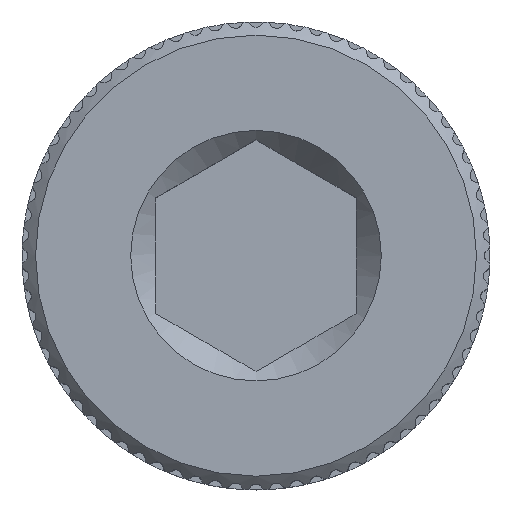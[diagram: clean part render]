
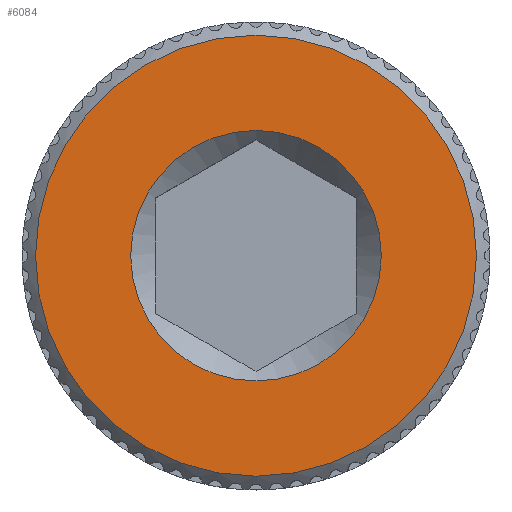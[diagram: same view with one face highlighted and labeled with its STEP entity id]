
A CAD part, top view. The second image highlights one B-rep face of the part: STEP entity #6084.
In plain terms, the highlighted planar face has unit normal (0, 0, 1).
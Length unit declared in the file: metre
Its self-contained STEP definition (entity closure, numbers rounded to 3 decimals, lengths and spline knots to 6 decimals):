
#15=PLANE('',#6568);
#2191=ORIENTED_EDGE('',*,*,#3583,.F.);
#2192=ORIENTED_EDGE('',*,*,#3869,.F.);
#3583=EDGE_CURVE('NONE',#4576,#4576,#5147,.T.);
#3869=EDGE_CURVE('NONE',#4853,#4853,#5220,.T.);
#4576=VERTEX_POINT('',#9306);
#4853=VERTEX_POINT('',#10515);
#5147=CIRCLE('',#6413,0.001875);
#5220=CIRCLE('',#6487,0.0033);
#5383=EDGE_LOOP('',(#2191));
#5384=EDGE_LOOP('',(#2192));
#5699=FACE_BOUND('',#5383,.T.);
#5700=FACE_BOUND('',#5384,.T.);
#6084=ADVANCED_FACE('NONE',(#5699,#5700),#15,.T.);
#6413=AXIS2_PLACEMENT_3D('',#9305,#6989,#6990);
#6487=AXIS2_PLACEMENT_3D('',#10514,#7137,#7138);
#6568=AXIS2_PLACEMENT_3D('',#10887,#7443,#7444);
#6989=DIRECTION('',(0.,0.,1.));
#6990=DIRECTION('',(1.,0.,0.));
#7137=DIRECTION('',(0.,0.,-1.));
#7138=DIRECTION('',(0.,1.,0.));
#7443=DIRECTION('',(0.,0.,1.));
#7444=DIRECTION('',(0.,-1.,0.));
#9305=CARTESIAN_POINT('',(0.,0.,0.01));
#9306=CARTESIAN_POINT('',(0.001875,0.,0.01));
#10514=CARTESIAN_POINT('',(0.,0.,0.01));
#10515=CARTESIAN_POINT('',(0.,0.0033,0.01));
#10887=CARTESIAN_POINT('',(0.,0.,0.01));
